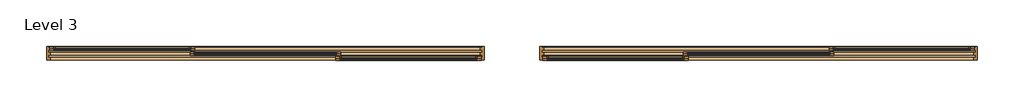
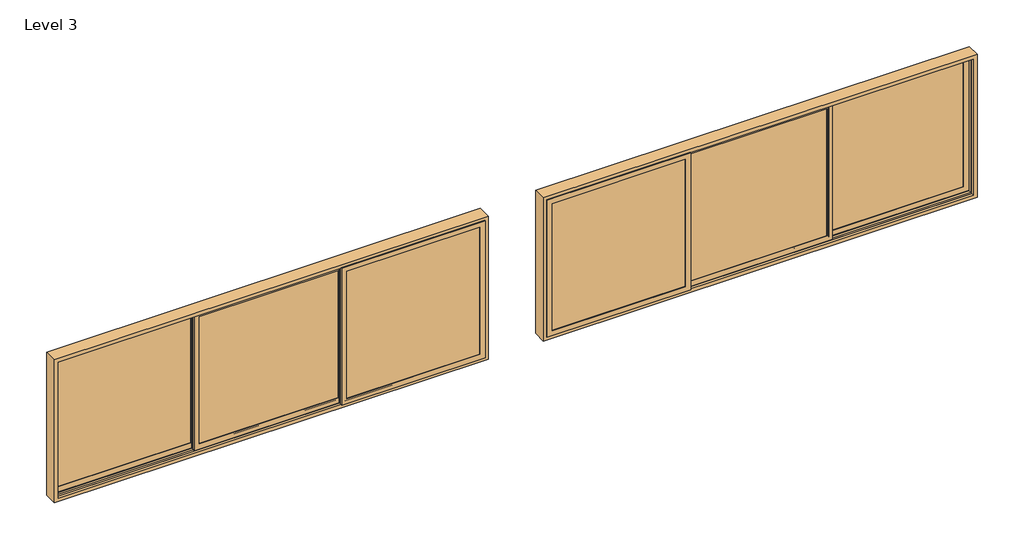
# One storey: 2 doors.
"""IFC4 building model written with IfcOpenShell, lengths in millimetres."""

import ifcopenshell
import ifcopenshell.guid

model = None  # the IFC model being written
_history = None  # IfcOwnerHistory: only IFC2X3 demands one
_inside = {}  # id of a spatial element -> (the spatial element, [elements in it])
_under = {}  # id of a project, library or spatial element -> (it, [spatial elements below it])
_declared = {}  # id of a project -> (the project, [libraries it declares])
_typed = {}  # id of a type object -> (the type object, [elements of that type])
_made_of = {}  # id of a material, layer set ... -> (it, [elements and type objects made of it])


def new_model(schema):
    """Start an empty IFC model of exactly this schema.

    Asked for "IFC4X3", IfcOpenShell would pick the latest addendum, in which some entities
    have other attributes; the version numbers below select the first issue.
    IFC2X3 requires an IfcOwnerHistory on every rooted entity: one is made here for all.
    """
    global model, _history
    if schema == "IFC4X3":
        model = ifcopenshell.file(schema_version=(4, 3, 0, 0))
    else:
        model = ifcopenshell.file(schema=schema)
    _inside.clear()
    _under.clear()
    _declared.clear()
    _typed.clear()
    _made_of.clear()
    _history = None
    if model.schema == "IFC2X3":
        org = make("IfcOrganization", Name="unknown")
        user = make(
            "IfcPersonAndOrganization",
            ThePerson=make("IfcPerson", FamilyName="unknown"),
            TheOrganization=org,
        )
        app = make(
            "IfcApplication",
            ApplicationDeveloper=org,
            Version="unknown",
            ApplicationFullName="unknown",
            ApplicationIdentifier="unknown",
        )
        _history = make(
            "IfcOwnerHistory",
            OwningUser=user,
            OwningApplication=app,
            ChangeAction="ADDED",
            CreationDate=0,
        )
    return model


def make(cls, **values):
    """One entity of the class cls with the attributes given. An attribute that is None is left unset."""
    return model.create_entity(
        cls, **{name: value for name, value in values.items() if value is not None}
    )


def rooted(cls, **values):
    """An entity with a GlobalId (a new one), such as an element, a storey or a relation."""
    return make(cls, GlobalId=ifcopenshell.guid.new(), OwnerHistory=_history, **values)


def si_unit(unit_type, name, prefix=None):
    """IfcSIUnit, for example si_unit("LENGTHUNIT", "METRE", prefix="MILLI")."""
    return make("IfcSIUnit", UnitType=unit_type, Prefix=prefix, Name=name)


def assignment(units):
    """IfcUnitAssignment: the units of a project."""
    return None if units is None else make("IfcUnitAssignment", Units=units)


def point(xyz):
    """IfcCartesianPoint."""
    return None if xyz is None else make("IfcCartesianPoint", Coordinates=xyz)


def direction(xyz):
    """IfcDirection."""
    return None if xyz is None else make("IfcDirection", DirectionRatios=xyz)


def frame(location, z_axis=None, x_axis=None):
    """IfcAxis2Placement3D, a coordinate frame: its origin and axes. An axis left out is left unset."""
    return make(
        "IfcAxis2Placement3D",
        Location=point(location),
        Axis=direction(z_axis),
        RefDirection=direction(x_axis),
    )


def origin():
    """The frame at (0, 0, 0) with its axes left unset."""
    return frame((0.0, 0.0, 0.0))


def place(relative_to, where):
    """IfcLocalPlacement: puts the frame where relative to a parent placement (None: the world)."""
    return make(
        "IfcLocalPlacement", PlacementRelTo=relative_to, RelativePlacement=where
    )


def context(
    kind, dimensions, precision=None, world=None, true_north=None, identifier=None
):
    """IfcGeometricRepresentationContext, for example the 3D "Model" context."""
    return make(
        "IfcGeometricRepresentationContext",
        ContextIdentifier=identifier,
        ContextType=kind,
        CoordinateSpaceDimension=dimensions,
        Precision=precision,
        WorldCoordinateSystem=world,
        TrueNorth=true_north,
    )


def project(units=None, contexts=None):
    """IfcProject with its units and contexts."""
    return rooted(
        "IfcProject",
        Name="project",
        RepresentationContexts=contexts,
        UnitsInContext=assignment(units),
    )


def spatial(cls, under=None, at=None, **own):
    """A site, building, storey or space (cls), placed at a placement, below another one or the project."""
    s = rooted(cls, ObjectPlacement=at, **own)
    if under is not None:
        _under.setdefault(under.id(), (under, []))[1].append(s)
    return s


def polyline(points):
    """IfcPolyline through the points."""
    return make("IfcPolyline", Points=[point(p) for p in points])


def outline(outer, holes=None, kind="AREA"):
    """IfcArbitraryClosedProfileDef: a profile drawn as a closed curve; with holes, ...WithVoids."""
    if holes is None:
        return make("IfcArbitraryClosedProfileDef", ProfileType=kind, OuterCurve=outer)
    return make(
        "IfcArbitraryProfileDefWithVoids",
        ProfileType=kind,
        OuterCurve=outer,
        InnerCurves=holes,
    )


def extrude(swept, where, along, depth):
    """IfcExtrudedAreaSolid: the profile swept, set in the frame where, extruded along a direction by depth."""
    return make(
        "IfcExtrudedAreaSolid",
        SweptArea=swept,
        Position=where,
        ExtrudedDirection=direction(along),
        Depth=depth,
    )


def faces_of(points, faces, orient=None, outer=None):
    """IfcFace entities. A face is a list of loops; a loop is a list of indices into points, from 0.

    orient and outer hold one flag for each loop. By default every Orientation is true, the
    first loop of a face is its IfcFaceOuterBound and the others are IfcFaceBound.
    """
    made = []
    for i, loops in enumerate(faces):
        bounds = []
        for j, loop in enumerate(loops):
            is_outer = j == 0 if outer is None else outer[i][j]
            bounds.append(
                make(
                    "IfcFaceOuterBound" if is_outer else "IfcFaceBound",
                    Bound=make("IfcPolyLoop", Polygon=[points[k] for k in loop]),
                    Orientation=True if orient is None else orient[i][j],
                )
            )
        made.append(make("IfcFace", Bounds=bounds))
    return made


def faceted_brep(points, faces, orient=None, outer=None, voids=None):
    """IfcFacetedBrep: a solid bounded by flat faces; with voids (closed shells), ...WithVoids."""
    shared = [point(p) for p in points]
    hull = make("IfcClosedShell", CfsFaces=faces_of(shared, faces, orient, outer))
    if voids is None:
        return make("IfcFacetedBrep", Outer=hull)
    return make(
        "IfcFacetedBrepWithVoids",
        Outer=hull,
        Voids=[
            make(cls, CfsFaces=faces_of(shared, fs, o, b)) for cls, fs, o, b in voids
        ],
    )


def shape(context_of_items, identifier, shape_type, items):
    """IfcShapeRepresentation: the items that make up one representation, for example the "Body"."""
    return make(
        "IfcShapeRepresentation",
        ContextOfItems=context_of_items,
        RepresentationIdentifier=identifier,
        RepresentationType=shape_type,
        Items=items,
    )


def source(mapping_origin, context_of_items, identifier, shape_type, items):
    """IfcRepresentationMap: a shape defined once, which mapped items show again and again."""
    return make(
        "IfcRepresentationMap",
        MappingOrigin=mapping_origin,
        MappedRepresentation=shape(context_of_items, identifier, shape_type, items),
    )


def transform(
    local_origin,
    x_axis=None,
    y_axis=None,
    z_axis=None,
    scale=None,
    scale2=None,
    scale3=None,
    uniform=True,
):
    """IfcCartesianTransformationOperator3D, or its non-uniform kind. x_axis, y_axis, z_axis: its Axis1, 2, 3."""
    if uniform:
        return make(
            "IfcCartesianTransformationOperator3D",
            Axis1=direction(x_axis),
            Axis2=direction(y_axis),
            LocalOrigin=point(local_origin),
            Scale=scale,
            Axis3=direction(z_axis),
        )
    return make(
        "IfcCartesianTransformationOperator3DnonUniform",
        Axis1=direction(x_axis),
        Axis2=direction(y_axis),
        LocalOrigin=point(local_origin),
        Scale=scale,
        Axis3=direction(z_axis),
        Scale2=scale2,
        Scale3=scale3,
    )


def mapped(mapping_source, mapping_target):
    """IfcMappedItem: shows the shape of a source again, moved by a transform."""
    return make(
        "IfcMappedItem", MappingSource=mapping_source, MappingTarget=mapping_target
    )


def made_of(thing, what):
    """Note that an element or type object is made of a material, layer set ...; save() writes the relation."""
    if what is not None:
        _made_of.setdefault(what.id(), (what, []))[1].append(thing)
    return thing


def element(
    cls,
    number,
    at=None,
    inside=None,
    cuts=None,
    type_object=None,
    material=None,
    context=None,
    identifier="Body",
    shape_type=None,
    held_by="IfcProductDefinitionShape",
    body=None,
    shapes=None,
    **own,
):
    """One element of the class cls, such as IfcWall. Its Tag is "e" and its number.

    at: its placement. inside: the storey or other place that contains it. cuts: it is an
    opening in that element (IfcRelVoidsElement). A single representation is given by context,
    identifier, shape_type and body (its items); several are given by shapes. held_by: the class
    of the entity that holds the representations. save() writes the other relations.
    """
    e = rooted(cls, Tag="e%d" % number, ObjectPlacement=at, **own)
    if body is not None:
        shapes = [shape(context, identifier, shape_type, body)]
    if shapes is not None:
        e.Representation = make(held_by, Representations=shapes)
    if inside is not None:
        _inside.setdefault(inside.id(), (inside, []))[1].append(e)
    if cuts is not None:
        rooted(
            "IfcRelVoidsElement", RelatingBuildingElement=cuts, RelatedOpeningElement=e
        )
    if type_object is not None:
        _typed.setdefault(type_object.id(), (type_object, []))[1].append(e)
    return made_of(e, material)


def aggregate(whole, parts):
    """IfcRelAggregates: a whole, such as a stair, and the parts it consists of."""
    return rooted("IfcRelAggregates", RelatingObject=whole, RelatedObjects=parts)


def save(model, path):
    """Write the relations noted so far, then the file.

    IfcRelAggregates (storeys below a building ...), IfcRelContainedInSpatialStructure (elements
    in a storey), IfcRelDefinesByType, IfcRelAssociatesMaterial and IfcRelDeclares: one each for
    every whole, place, type object, material and project.
    """
    for whole, parts in _under.values():
        aggregate(whole, parts)
    for where, things in _inside.values():
        rooted(
            "IfcRelContainedInSpatialStructure",
            RelatedElements=things,
            RelatingStructure=where,
        )
    for kind, things in _typed.values():
        rooted("IfcRelDefinesByType", RelatedObjects=things, RelatingType=kind)
    for what, things in _made_of.values():
        rooted("IfcRelAssociatesMaterial", RelatedObjects=things, RelatingMaterial=what)
    for by, libraries in _declared.values():
        rooted("IfcRelDeclares", RelatingContext=by, RelatedDefinitions=libraries)
    model.write(path)


def standard_4c101147(model_context):
    return source(origin(), model_context, "Body", "SolidModel", [
        extrude(outline(polyline([(2892.5, 67.0), (2892.5, 63.0), (1024.8333333, 63.0), (1024.8333333, 67.0), (2892.5, 67.0)])), frame((0.0, 0.0, 907.5), z_axis=(0.0, 0.0, 1.0), x_axis=(1.0, 0.0, 0.0)), (0.0, 0.0, 1.0), 1885.0),
        extrude(outline(polyline([(2892.5, 47.0), (2892.5, 43.0), (1024.8333333, 43.0), (1024.8333333, 47.0), (2892.5, 47.0)])), frame((0.0, 0.0, 907.5), z_axis=(0.0, 0.0, 1.0), x_axis=(1.0, 0.0, 0.0)), (0.0, 0.0, 1.0), 1885.0),
        extrude(outline(polyline([(2792.5, 2892.5), (2792.5, 1024.8333333), (907.5, 1024.8333333), (907.5, 2892.5), (2792.5, 2892.5)]), holes=[polyline([(2782.5, 1034.8333333), (2782.5, 2882.5), (917.5, 2882.5), (917.5, 1034.8333333), (2782.5, 1034.8333333)])]), frame((0.0, 47.0, 0.0), z_axis=(0.0, 1.0, 0.0), x_axis=(0.0, 0.0, 1.0)), (0.0, 0.0, 1.0), 16.0),
        extrude(outline(polyline([(902.5, 2897.5), (2797.5, 2897.5), (2797.5, 1019.8333333), (902.5, 1019.8333333), (902.5, 2897.5)]), holes=[polyline([(2777.5, 2877.5), (922.5, 2877.5), (922.5, 1039.8333333), (2777.5, 1039.8333333), (2777.5, 2877.5)])]), frame((0.0, 74.0102223, 0.0), z_axis=(0.0, 1.0, 0.0), x_axis=(0.0, 0.0, 1.0)), (0.0, 0.0, 1.0), 11.9897777),
        extrude(outline(polyline([(848.5, 2951.5), (2851.5, 2951.5), (2851.5, 965.8333333), (848.5, 965.8333333), (848.5, 2951.5)]), holes=[polyline([(2797.5, 2897.5), (902.5, 2897.5), (902.5, 1019.8333333), (2797.5, 1019.8333333), (2797.5, 2897.5)])]), frame((0.0, 62.0, 0.0), z_axis=(0.0, 1.0, 0.0), x_axis=(0.0, 0.0, 1.0)), (0.0, 0.0, 1.0), 24.0),
        faceted_brep([(2877.5, 39.0, 2777.5), (2877.5, 39.0, 922.5), (2877.5, 35.0, 922.5), (2877.5, 35.0, 2777.5), (2900.5, 62.0, 2800.5), (2900.5, 62.0, 899.5), (2900.5, 39.0, 899.5), (2900.5, 39.0, 2800.5), (2951.5, 35.0, 2851.5), (2951.5, 35.0, 848.5), (2951.5, 62.0, 848.5), (2951.5, 62.0, 2851.5), (1039.8333333, 39.0, 922.5), (1039.8333333, 35.0, 922.5), (1016.8333333, 62.0, 899.5), (1016.8333333, 39.0, 899.5), (965.8333333, 35.0, 848.5), (965.8333333, 62.0, 848.5), (1039.8333333, 39.0, 2777.5), (1039.8333333, 35.0, 2777.5), (1016.8333333, 62.0, 2800.5), (1016.8333333, 39.0, 2800.5), (965.8333333, 35.0, 2851.5), (965.8333333, 62.0, 2851.5)], [[[0, 1, 2, 3]], [[4, 5, 6, 7]], [[8, 9, 10, 11]], [[1, 12, 13, 2]], [[5, 14, 15, 6]], [[9, 16, 17, 10]], [[12, 18, 19, 13]], [[14, 20, 21, 15]], [[16, 22, 23, 17]], [[9, 8, 22, 16], [3, 2, 13, 19]], [[18, 0, 3, 19]], [[7, 6, 15, 21], [1, 0, 18, 12]], [[20, 4, 7, 21]], [[11, 10, 17, 23], [5, 4, 20, 14]], [[22, 8, 11, 23]]]),
        extrude(outline(polyline([(971.8333333, 0.0), (971.8333333, -4.0), (-971.8333333, -4.0), (-971.8333333, 0.0), (971.8333333, 0.0)])), frame((0.0, 0.0, 907.5), z_axis=(0.0, 0.0, 1.0), x_axis=(1.0, 0.0, 0.0)), (0.0, 0.0, 1.0), 1885.0),
        extrude(outline(polyline([(971.8333333, -20.0), (971.8333333, -24.0), (-971.8333333, -24.0), (-971.8333333, -20.0), (971.8333333, -20.0)])), frame((0.0, 0.0, 907.5), z_axis=(0.0, 0.0, 1.0), x_axis=(1.0, 0.0, 0.0)), (0.0, 0.0, 1.0), 1885.0),
        extrude(outline(polyline([(2792.5, 971.8333333), (2792.5, -971.8333333), (907.5, -971.8333333), (907.5, 971.8333333), (2792.5, 971.8333333)]), holes=[polyline([(2782.5, -961.8333333), (2782.5, 961.8333333), (917.5, 961.8333333), (917.5, -961.8333333), (2782.5, -961.8333333)])]), frame((0.0, -20.0, 0.0), z_axis=(0.0, 1.0, 0.0), x_axis=(0.0, 0.0, 1.0)), (0.0, 0.0, 1.0), 16.0),
        extrude(outline(polyline([(902.5, 976.8333333), (2797.5, 976.8333333), (2797.5, -976.8333333), (902.5, -976.8333333), (902.5, 976.8333333)]), holes=[polyline([(2777.5, 956.8333333), (922.5, 956.8333333), (922.5, -956.8333333), (2777.5, -956.8333333), (2777.5, 956.8333333)])]), frame((0.0, 7.0102223, 0.0), z_axis=(0.0, 1.0, 0.0), x_axis=(0.0, 0.0, 1.0)), (0.0, 0.0, 1.0), 11.9897777),
        extrude(outline(polyline([(848.5, 1030.8333333), (2851.5, 1030.8333333), (2851.5, -1030.8333333), (848.5, -1030.8333333), (848.5, 1030.8333333)]), holes=[polyline([(2797.5, 976.8333333), (902.5, 976.8333333), (902.5, -976.8333333), (2797.5, -976.8333333), (2797.5, 976.8333333)])]), frame((0.0, -5.0, 0.0), z_axis=(0.0, 1.0, 0.0), x_axis=(0.0, 0.0, 1.0)), (0.0, 0.0, 1.0), 24.0),
        faceted_brep([(956.8333333, -28.0, 2777.5), (956.8333333, -28.0, 922.5), (956.8333333, -32.0, 922.5), (956.8333333, -32.0, 2777.5), (979.8333333, -5.0, 2800.5), (979.8333333, -5.0, 899.5), (979.8333333, -28.0, 899.5), (979.8333333, -28.0, 2800.5), (1030.8333333, -32.0, 2851.5), (1030.8333333, -32.0, 848.5), (1030.8333333, -5.0, 848.5), (1030.8333333, -5.0, 2851.5), (-956.8333333, -28.0, 922.5), (-956.8333333, -32.0, 922.5), (-979.8333333, -5.0, 899.5), (-979.8333333, -28.0, 899.5), (-1030.8333333, -32.0, 848.5), (-1030.8333333, -5.0, 848.5), (-956.8333333, -28.0, 2777.5), (-956.8333333, -32.0, 2777.5), (-979.8333333, -5.0, 2800.5), (-979.8333333, -28.0, 2800.5), (-1030.8333333, -32.0, 2851.5), (-1030.8333333, -5.0, 2851.5)], [[[0, 1, 2, 3]], [[4, 5, 6, 7]], [[8, 9, 10, 11]], [[1, 12, 13, 2]], [[5, 14, 15, 6]], [[9, 16, 17, 10]], [[12, 18, 19, 13]], [[14, 20, 21, 15]], [[16, 22, 23, 17]], [[9, 8, 22, 16], [3, 2, 13, 19]], [[18, 0, 3, 19]], [[7, 6, 15, 21], [1, 0, 18, 12]], [[20, 4, 7, 21]], [[11, 10, 17, 23], [5, 4, 20, 14]], [[22, 8, 11, 23]]]),
        extrude(outline(polyline([(-1024.8333333, -67.0), (-1024.8333333, -71.0), (-2892.5, -71.0), (-2892.5, -67.0), (-1024.8333333, -67.0)])), frame((0.0, 0.0, 907.5), z_axis=(0.0, 0.0, 1.0), x_axis=(1.0, 0.0, 0.0)), (0.0, 0.0, 1.0), 1885.0),
        extrude(outline(polyline([(-1024.8333333, -87.0), (-1024.8333333, -91.0), (-2892.5, -91.0), (-2892.5, -87.0), (-1024.8333333, -87.0)])), frame((0.0, 0.0, 907.5), z_axis=(0.0, 0.0, 1.0), x_axis=(1.0, 0.0, 0.0)), (0.0, 0.0, 1.0), 1885.0),
        extrude(outline(polyline([(2792.5, -1024.8333333), (2792.5, -2892.5), (907.5, -2892.5), (907.5, -1024.8333333), (2792.5, -1024.8333333)]), holes=[polyline([(2782.5, -2882.5), (2782.5, -1034.8333333), (917.5, -1034.8333333), (917.5, -2882.5), (2782.5, -2882.5)])]), frame((0.0, -87.0, 0.0), z_axis=(0.0, 1.0, 0.0), x_axis=(0.0, 0.0, 1.0)), (0.0, 0.0, 1.0), 16.0),
        extrude(outline(polyline([(902.5, -1019.8333333), (2797.5, -1019.8333333), (2797.5, -2897.5), (902.5, -2897.5), (902.5, -1019.8333333)]), holes=[polyline([(2777.5, -1039.8333333), (922.5, -1039.8333333), (922.5, -2877.5), (2777.5, -2877.5), (2777.5, -1039.8333333)])]), frame((0.0, -59.9897777, 0.0), z_axis=(0.0, 1.0, 0.0), x_axis=(0.0, 0.0, 1.0)), (0.0, 0.0, 1.0), 11.9897777),
        extrude(outline(polyline([(848.5, -965.8333333), (2851.5, -965.8333333), (2851.5, -2951.5), (848.5, -2951.5), (848.5, -965.8333333)]), holes=[polyline([(2797.5, -1019.8333333), (902.5, -1019.8333333), (902.5, -2897.5), (2797.5, -2897.5), (2797.5, -1019.8333333)])]), frame((0.0, -72.0, 0.0), z_axis=(0.0, 1.0, 0.0), x_axis=(0.0, 0.0, 1.0)), (0.0, 0.0, 1.0), 24.0),
        faceted_brep([(-1039.8333333, -95.0, 2777.5), (-1039.8333333, -95.0, 922.5), (-1039.8333333, -99.0, 922.5), (-1039.8333333, -99.0, 2777.5), (-1016.8333333, -72.0, 2800.5), (-1016.8333333, -72.0, 899.5), (-1016.8333333, -95.0, 899.5), (-1016.8333333, -95.0, 2800.5), (-965.8333333, -99.0, 2851.5), (-965.8333333, -99.0, 848.5), (-965.8333333, -72.0, 848.5), (-965.8333333, -72.0, 2851.5), (-2877.5, -95.0, 922.5), (-2877.5, -99.0, 922.5), (-2900.5, -72.0, 899.5), (-2900.5, -95.0, 899.5), (-2951.5, -99.0, 848.5), (-2951.5, -72.0, 848.5), (-2877.5, -95.0, 2777.5), (-2877.5, -99.0, 2777.5), (-2900.5, -72.0, 2800.5), (-2900.5, -95.0, 2800.5), (-2951.5, -99.0, 2851.5), (-2951.5, -72.0, 2851.5)], [[[0, 1, 2, 3]], [[4, 5, 6, 7]], [[8, 9, 10, 11]], [[1, 12, 13, 2]], [[5, 14, 15, 6]], [[9, 16, 17, 10]], [[12, 18, 19, 13]], [[14, 20, 21, 15]], [[16, 22, 23, 17]], [[9, 8, 22, 16], [3, 2, 13, 19]], [[18, 0, 3, 19]], [[7, 6, 15, 21], [1, 0, 18, 12]], [[20, 4, 7, 21]], [[11, 10, 17, 23], [5, 4, 20, 14]], [[22, 8, 11, 23]]]),
        faceted_brep([(2995.0, 95.0, 2895.0), (-2995.0, 95.0, 2895.0), (-2995.0, -89.39785, 2895.0), (2995.0, -89.39785, 2895.0), (2943.1999999, 91.0, 2843.1999999), (-2943.1999999, 91.0, 2843.1999999), (-2943.1999999, 95.0, 2843.1999999), (2943.1999999, 95.0, 2843.1999999), (2969.1999999, 76.3, 2869.1999999), (-2969.1999999, 76.3, 2869.1999999), (-2969.1999999, 91.0, 2869.1999999), (2969.1999999, 91.0, 2869.1999999), (2943.1999999, 43.7842251, 2843.1999999), (-2943.1999999, 43.7842251, 2843.1999999), (-2943.1999999, 76.3, 2843.1999999), (2943.1999999, 76.3, 2843.1999999), (2969.1999999, 9.7842251, 2869.1999999), (-2969.1999999, 9.7842251, 2869.1999999), (-2969.1999999, 43.7842251, 2869.1999999), (2969.1999999, 43.7842251, 2869.1999999), (2943.1999999, -22.7989407, 2843.1999999), (-2943.1999999, -22.7989407, 2843.1999999), (-2943.1999999, 9.7842251, 2843.1999999), (2943.1999999, 9.7842251, 2843.1999999), (2969.2, -56.7989407, 2869.2), (-2969.2, -56.7989407, 2869.2), (-2969.2, -22.7989407, 2869.2), (2969.2, -22.7989407, 2869.2), (2943.0, -89.39785, 2843.0), (-2943.0, -89.39785, 2843.0), (-2943.0, -56.7989407, 2843.0), (2943.0, -56.7989407, 2843.0), (-2995.0, 95.0, 805.0), (-2995.0, -89.39785, 805.0), (-2943.1999999, 91.0, 856.8000001), (-2943.1999999, 95.0, 856.8000001), (-2969.1999999, 76.3, 830.8000001), (-2969.1999999, 91.0, 830.8000001), (-2943.1999999, 43.7842251, 856.8000001), (-2943.1999999, 76.3, 856.8000001), (-2969.1999999, 9.7842251, 830.8000001), (-2969.1999999, 43.7842251, 830.8000001), (-2943.1999999, -22.7989407, 856.8000001), (-2943.1999999, 9.7842251, 856.8000001), (-2969.2, -56.7989407, 830.8), (-2969.2, -22.7989407, 830.8), (-2943.0, -89.39785, 857.0), (-2943.0, -56.7989407, 857.0), (2995.0, 95.0, 805.0), (2995.0, -89.39785, 805.0), (2943.1999999, 91.0, 856.8000001), (2943.1999999, 95.0, 856.8000001), (2969.1999999, 76.3, 830.8000001), (2969.1999999, 91.0, 830.8000001), (2943.1999999, 43.7842251, 856.8000001), (2943.1999999, 76.3, 856.8000001), (2969.1999999, 9.7842251, 830.8000001), (2969.1999999, 43.7842251, 830.8000001), (2943.1999999, -22.7989407, 856.8000001), (2943.1999999, 9.7842251, 856.8000001), (2969.2, -56.7989407, 830.8), (2969.2, -22.7989407, 830.8), (2943.0, -89.39785, 857.0), (2943.0, -56.7989407, 857.0)], [[[0, 1, 2, 3]], [[4, 5, 6, 7]], [[8, 9, 10, 11]], [[12, 13, 14, 15]], [[16, 17, 18, 19]], [[20, 21, 22, 23]], [[24, 25, 26, 27]], [[28, 29, 30, 31]], [[1, 32, 33, 2]], [[5, 34, 35, 6]], [[9, 36, 37, 10]], [[13, 38, 39, 14]], [[17, 40, 41, 18]], [[21, 42, 43, 22]], [[25, 44, 45, 26]], [[29, 46, 47, 30]], [[32, 48, 49, 33]], [[34, 50, 51, 35]], [[36, 52, 53, 37]], [[38, 54, 55, 39]], [[40, 56, 57, 41]], [[42, 58, 59, 43]], [[44, 60, 61, 45]], [[46, 62, 63, 47]], [[3, 2, 33, 49], [29, 28, 62, 46]], [[48, 0, 3, 49]], [[1, 0, 48, 32], [7, 6, 35, 51]], [[50, 4, 7, 51]], [[11, 10, 37, 53], [5, 4, 50, 34]], [[52, 8, 11, 53]], [[9, 8, 52, 36], [15, 14, 39, 55]], [[54, 12, 15, 55]], [[19, 18, 41, 57], [13, 12, 54, 38]], [[56, 16, 19, 57]], [[17, 16, 56, 40], [23, 22, 43, 59]], [[58, 20, 23, 59]], [[27, 26, 45, 61], [21, 20, 58, 42]], [[60, 24, 27, 61]], [[25, 24, 60, 44], [31, 30, 47, 63]], [[62, 28, 31, 63]]]),
    ])


def standard_dc2410ad(model_context):
    return source(origin(), model_context, "Body", "SolidModel", [
        extrude(outline(polyline([(2892.5, -67.0), (1024.8333333, -67.0), (1024.8333333, -63.0), (2892.5, -63.0), (2892.5, -67.0)])), frame((0.0, 0.0, 907.5), z_axis=(0.0, 0.0, 1.0), x_axis=(1.0, 0.0, 0.0)), (0.0, 0.0, 1.0), 1885.0),
        extrude(outline(polyline([(2892.5, -47.0), (1024.8333333, -47.0), (1024.8333333, -43.0), (2892.5, -43.0), (2892.5, -47.0)])), frame((0.0, 0.0, 907.5), z_axis=(0.0, 0.0, 1.0), x_axis=(1.0, 0.0, 0.0)), (0.0, 0.0, 1.0), 1885.0),
        extrude(outline(polyline([(2792.5, 1024.8333333), (907.5, 1024.8333333), (907.5, 2892.5), (2792.5, 2892.5), (2792.5, 1024.8333333)]), holes=[polyline([(2782.5, 2882.5), (917.5, 2882.5), (917.5, 1034.8333333), (2782.5, 1034.8333333), (2782.5, 2882.5)])]), frame((0.0, -63.0, 0.0), z_axis=(0.0, 1.0, 0.0), x_axis=(0.0, 0.0, 1.0)), (0.0, 0.0, 1.0), 16.0),
        extrude(outline(polyline([(2797.5, 2897.5), (2797.5, 1019.8333333), (902.5, 1019.8333333), (902.5, 2897.5), (2797.5, 2897.5)]), holes=[polyline([(922.5, 2877.5), (922.5, 1039.8333333), (2777.5, 1039.8333333), (2777.5, 2877.5), (922.5, 2877.5)])]), frame((0.0, -86.0, 0.0), z_axis=(0.0, 1.0, 0.0), x_axis=(0.0, 0.0, 1.0)), (0.0, 0.0, 1.0), 11.9897777),
        extrude(outline(polyline([(2851.5, 2951.5), (2851.5, 965.8333333), (848.5, 965.8333333), (848.5, 2951.5), (2851.5, 2951.5)]), holes=[polyline([(902.5, 2897.5), (902.5, 1019.8333333), (2797.5, 1019.8333333), (2797.5, 2897.5), (902.5, 2897.5)])]), frame((0.0, -86.0, 0.0), z_axis=(0.0, 1.0, 0.0), x_axis=(0.0, 0.0, 1.0)), (0.0, 0.0, 1.0), 24.0),
        faceted_brep([(2877.5, -39.0, 2777.5), (2877.5, -35.0, 2777.5), (2877.5, -35.0, 922.5), (2877.5, -39.0, 922.5), (2900.5, -62.0, 2800.5), (2900.5, -39.0, 2800.5), (2900.5, -39.0, 899.5), (2900.5, -62.0, 899.5), (2951.5, -35.0, 2851.5), (2951.5, -62.0, 2851.5), (2951.5, -62.0, 848.5), (2951.5, -35.0, 848.5), (1039.8333333, -35.0, 922.5), (1039.8333333, -39.0, 922.5), (1016.8333333, -39.0, 899.5), (1016.8333333, -62.0, 899.5), (965.8333333, -62.0, 848.5), (965.8333333, -35.0, 848.5), (1039.8333333, -35.0, 2777.5), (1039.8333333, -39.0, 2777.5), (1016.8333333, -39.0, 2800.5), (1016.8333333, -62.0, 2800.5), (965.8333333, -62.0, 2851.5), (965.8333333, -35.0, 2851.5)], [[[0, 1, 2, 3]], [[4, 5, 6, 7]], [[8, 9, 10, 11]], [[3, 2, 12, 13]], [[7, 6, 14, 15]], [[11, 10, 16, 17]], [[13, 12, 18, 19]], [[15, 14, 20, 21]], [[17, 16, 22, 23]], [[11, 17, 23, 8], [1, 18, 12, 2]], [[19, 18, 1, 0]], [[5, 20, 14, 6], [3, 13, 19, 0]], [[21, 20, 5, 4]], [[9, 22, 16, 10], [7, 15, 21, 4]], [[23, 22, 9, 8]]]),
        extrude(outline(polyline([(971.8333333, 0.0), (-971.8333333, 0.0), (-971.8333333, 4.0), (971.8333333, 4.0), (971.8333333, 0.0)])), frame((0.0, 0.0, 907.5), z_axis=(0.0, 0.0, 1.0), x_axis=(1.0, 0.0, 0.0)), (0.0, 0.0, 1.0), 1885.0),
        extrude(outline(polyline([(971.8333333, 20.0), (-971.8333333, 20.0), (-971.8333333, 24.0), (971.8333333, 24.0), (971.8333333, 20.0)])), frame((0.0, 0.0, 907.5), z_axis=(0.0, 0.0, 1.0), x_axis=(1.0, 0.0, 0.0)), (0.0, 0.0, 1.0), 1885.0),
        extrude(outline(polyline([(2792.5, -971.8333333), (907.5, -971.8333333), (907.5, 971.8333333), (2792.5, 971.8333333), (2792.5, -971.8333333)]), holes=[polyline([(2782.5, 961.8333333), (917.5, 961.8333333), (917.5, -961.8333333), (2782.5, -961.8333333), (2782.5, 961.8333333)])]), frame((0.0, 4.0, 0.0), z_axis=(0.0, 1.0, 0.0), x_axis=(0.0, 0.0, 1.0)), (0.0, 0.0, 1.0), 16.0),
        extrude(outline(polyline([(2797.5, 976.8333333), (2797.5, -976.8333333), (902.5, -976.8333333), (902.5, 976.8333333), (2797.5, 976.8333333)]), holes=[polyline([(922.5, 956.8333333), (922.5, -956.8333333), (2777.5, -956.8333333), (2777.5, 956.8333333), (922.5, 956.8333333)])]), frame((0.0, -19.0, 0.0), z_axis=(0.0, 1.0, 0.0), x_axis=(0.0, 0.0, 1.0)), (0.0, 0.0, 1.0), 11.9897777),
        extrude(outline(polyline([(2851.5, 1030.8333333), (2851.5, -1030.8333333), (848.5, -1030.8333333), (848.5, 1030.8333333), (2851.5, 1030.8333333)]), holes=[polyline([(902.5, 976.8333333), (902.5, -976.8333333), (2797.5, -976.8333333), (2797.5, 976.8333333), (902.5, 976.8333333)])]), frame((0.0, -19.0, 0.0), z_axis=(0.0, 1.0, 0.0), x_axis=(0.0, 0.0, 1.0)), (0.0, 0.0, 1.0), 24.0),
        faceted_brep([(956.8333333, 28.0, 2777.5), (956.8333333, 32.0, 2777.5), (956.8333333, 32.0, 922.5), (956.8333333, 28.0, 922.5), (979.8333333, 5.0, 2800.5), (979.8333333, 28.0, 2800.5), (979.8333333, 28.0, 899.5), (979.8333333, 5.0, 899.5), (1030.8333333, 32.0, 2851.5), (1030.8333333, 5.0, 2851.5), (1030.8333333, 5.0, 848.5), (1030.8333333, 32.0, 848.5), (-956.8333333, 32.0, 922.5), (-956.8333333, 28.0, 922.5), (-979.8333333, 28.0, 899.5), (-979.8333333, 5.0, 899.5), (-1030.8333333, 5.0, 848.5), (-1030.8333333, 32.0, 848.5), (-956.8333333, 32.0, 2777.5), (-956.8333333, 28.0, 2777.5), (-979.8333333, 28.0, 2800.5), (-979.8333333, 5.0, 2800.5), (-1030.8333333, 5.0, 2851.5), (-1030.8333333, 32.0, 2851.5)], [[[0, 1, 2, 3]], [[4, 5, 6, 7]], [[8, 9, 10, 11]], [[3, 2, 12, 13]], [[7, 6, 14, 15]], [[11, 10, 16, 17]], [[13, 12, 18, 19]], [[15, 14, 20, 21]], [[17, 16, 22, 23]], [[11, 17, 23, 8], [1, 18, 12, 2]], [[19, 18, 1, 0]], [[5, 20, 14, 6], [3, 13, 19, 0]], [[21, 20, 5, 4]], [[9, 22, 16, 10], [7, 15, 21, 4]], [[23, 22, 9, 8]]]),
        extrude(outline(polyline([(-1024.8333333, 67.0), (-2892.5, 67.0), (-2892.5, 71.0), (-1024.8333333, 71.0), (-1024.8333333, 67.0)])), frame((0.0, 0.0, 907.5), z_axis=(0.0, 0.0, 1.0), x_axis=(1.0, 0.0, 0.0)), (0.0, 0.0, 1.0), 1885.0),
        extrude(outline(polyline([(-1024.8333333, 87.0), (-2892.5, 87.0), (-2892.5, 91.0), (-1024.8333333, 91.0), (-1024.8333333, 87.0)])), frame((0.0, 0.0, 907.5), z_axis=(0.0, 0.0, 1.0), x_axis=(1.0, 0.0, 0.0)), (0.0, 0.0, 1.0), 1885.0),
        extrude(outline(polyline([(2792.5, -2892.5), (907.5, -2892.5), (907.5, -1024.8333333), (2792.5, -1024.8333333), (2792.5, -2892.5)]), holes=[polyline([(2782.5, -1034.8333333), (917.5, -1034.8333333), (917.5, -2882.5), (2782.5, -2882.5), (2782.5, -1034.8333333)])]), frame((0.0, 71.0, 0.0), z_axis=(0.0, 1.0, 0.0), x_axis=(0.0, 0.0, 1.0)), (0.0, 0.0, 1.0), 16.0),
        extrude(outline(polyline([(2797.5, -1019.8333333), (2797.5, -2897.5), (902.5, -2897.5), (902.5, -1019.8333333), (2797.5, -1019.8333333)]), holes=[polyline([(922.5, -1039.8333333), (922.5, -2877.5), (2777.5, -2877.5), (2777.5, -1039.8333333), (922.5, -1039.8333333)])]), frame((0.0, 48.0, 0.0), z_axis=(0.0, 1.0, 0.0), x_axis=(0.0, 0.0, 1.0)), (0.0, 0.0, 1.0), 11.9897777),
        extrude(outline(polyline([(2851.5, -965.8333333), (2851.5, -2951.5), (848.5, -2951.5), (848.5, -965.8333333), (2851.5, -965.8333333)]), holes=[polyline([(902.5, -1019.8333333), (902.5, -2897.5), (2797.5, -2897.5), (2797.5, -1019.8333333), (902.5, -1019.8333333)])]), frame((0.0, 48.0, 0.0), z_axis=(0.0, 1.0, 0.0), x_axis=(0.0, 0.0, 1.0)), (0.0, 0.0, 1.0), 24.0),
        faceted_brep([(-1039.8333333, 95.0, 2777.5), (-1039.8333333, 99.0, 2777.5), (-1039.8333333, 99.0, 922.5), (-1039.8333333, 95.0, 922.5), (-1016.8333333, 72.0, 2800.5), (-1016.8333333, 95.0, 2800.5), (-1016.8333333, 95.0, 899.5), (-1016.8333333, 72.0, 899.5), (-965.8333333, 99.0, 2851.5), (-965.8333333, 72.0, 2851.5), (-965.8333333, 72.0, 848.5), (-965.8333333, 99.0, 848.5), (-2877.5, 99.0, 922.5), (-2877.5, 95.0, 922.5), (-2900.5, 95.0, 899.5), (-2900.5, 72.0, 899.5), (-2951.5, 72.0, 848.5), (-2951.5, 99.0, 848.5), (-2877.5, 99.0, 2777.5), (-2877.5, 95.0, 2777.5), (-2900.5, 95.0, 2800.5), (-2900.5, 72.0, 2800.5), (-2951.5, 72.0, 2851.5), (-2951.5, 99.0, 2851.5)], [[[0, 1, 2, 3]], [[4, 5, 6, 7]], [[8, 9, 10, 11]], [[3, 2, 12, 13]], [[7, 6, 14, 15]], [[11, 10, 16, 17]], [[13, 12, 18, 19]], [[15, 14, 20, 21]], [[17, 16, 22, 23]], [[11, 17, 23, 8], [1, 18, 12, 2]], [[19, 18, 1, 0]], [[5, 20, 14, 6], [3, 13, 19, 0]], [[21, 20, 5, 4]], [[9, 22, 16, 10], [7, 15, 21, 4]], [[23, 22, 9, 8]]]),
        faceted_brep([(2995.0, -95.0, 2895.0), (2995.0, 89.39785, 2895.0), (-2995.0, 89.39785, 2895.0), (-2995.0, -95.0, 2895.0), (2943.1999999, -91.0, 2843.1999999), (2943.1999999, -95.0, 2843.1999999), (-2943.1999999, -95.0, 2843.1999999), (-2943.1999999, -91.0, 2843.1999999), (2969.1999999, -76.3, 2869.1999999), (2969.1999999, -91.0, 2869.1999999), (-2969.1999999, -91.0, 2869.1999999), (-2969.1999999, -76.3, 2869.1999999), (2943.1999999, -43.7842251, 2843.1999999), (2943.1999999, -76.3, 2843.1999999), (-2943.1999999, -76.3, 2843.1999999), (-2943.1999999, -43.7842251, 2843.1999999), (2969.1999999, -9.7842251, 2869.1999999), (2969.1999999, -43.7842251, 2869.1999999), (-2969.1999999, -43.7842251, 2869.1999999), (-2969.1999999, -9.7842251, 2869.1999999), (2943.1999999, 22.7989407, 2843.1999999), (2943.1999999, -9.7842251, 2843.1999999), (-2943.1999999, -9.7842251, 2843.1999999), (-2943.1999999, 22.7989407, 2843.1999999), (2969.2, 56.7989407, 2869.2), (2969.2, 22.7989407, 2869.2), (-2969.2, 22.7989407, 2869.2), (-2969.2, 56.7989407, 2869.2), (2943.0, 89.39785, 2843.0), (2943.0, 56.7989407, 2843.0), (-2943.0, 56.7989407, 2843.0), (-2943.0, 89.39785, 2843.0), (-2995.0, 89.39785, 805.0), (-2995.0, -95.0, 805.0), (-2943.1999999, -95.0, 856.8000001), (-2943.1999999, -91.0, 856.8000001), (-2969.1999999, -91.0, 830.8000001), (-2969.1999999, -76.3, 830.8000001), (-2943.1999999, -76.3, 856.8000001), (-2943.1999999, -43.7842251, 856.8000001), (-2969.1999999, -43.7842251, 830.8000001), (-2969.1999999, -9.7842251, 830.8000001), (-2943.1999999, -9.7842251, 856.8000001), (-2943.1999999, 22.7989407, 856.8000001), (-2969.2, 22.7989407, 830.8), (-2969.2, 56.7989407, 830.8), (-2943.0, 56.7989407, 857.0), (-2943.0, 89.39785, 857.0), (2995.0, 89.39785, 805.0), (2995.0, -95.0, 805.0), (2943.1999999, -95.0, 856.8000001), (2943.1999999, -91.0, 856.8000001), (2969.1999999, -91.0, 830.8000001), (2969.1999999, -76.3, 830.8000001), (2943.1999999, -76.3, 856.8000001), (2943.1999999, -43.7842251, 856.8000001), (2969.1999999, -43.7842251, 830.8000001), (2969.1999999, -9.7842251, 830.8000001), (2943.1999999, -9.7842251, 856.8000001), (2943.1999999, 22.7989407, 856.8000001), (2969.2, 22.7989407, 830.8), (2969.2, 56.7989407, 830.8), (2943.0, 56.7989407, 857.0), (2943.0, 89.39785, 857.0)], [[[0, 1, 2, 3]], [[4, 5, 6, 7]], [[8, 9, 10, 11]], [[12, 13, 14, 15]], [[16, 17, 18, 19]], [[20, 21, 22, 23]], [[24, 25, 26, 27]], [[28, 29, 30, 31]], [[3, 2, 32, 33]], [[7, 6, 34, 35]], [[11, 10, 36, 37]], [[15, 14, 38, 39]], [[19, 18, 40, 41]], [[23, 22, 42, 43]], [[27, 26, 44, 45]], [[31, 30, 46, 47]], [[33, 32, 48, 49]], [[35, 34, 50, 51]], [[37, 36, 52, 53]], [[39, 38, 54, 55]], [[41, 40, 56, 57]], [[43, 42, 58, 59]], [[45, 44, 60, 61]], [[47, 46, 62, 63]], [[1, 48, 32, 2], [31, 47, 63, 28]], [[49, 48, 1, 0]], [[3, 33, 49, 0], [5, 50, 34, 6]], [[51, 50, 5, 4]], [[9, 52, 36, 10], [7, 35, 51, 4]], [[53, 52, 9, 8]], [[11, 37, 53, 8], [13, 54, 38, 14]], [[55, 54, 13, 12]], [[17, 56, 40, 18], [15, 39, 55, 12]], [[57, 56, 17, 16]], [[19, 41, 57, 16], [21, 58, 42, 22]], [[59, 58, 21, 20]], [[25, 60, 44, 26], [23, 43, 59, 20]], [[61, 60, 25, 24]], [[27, 45, 61, 24], [29, 62, 46, 30]], [[63, 62, 29, 28]]]),
    ])


model = new_model("IFC4")

# Units and contexts
model_context = context("Model", 3, world=origin())
ifc_project = project(units=[si_unit("LENGTHUNIT", "METRE", prefix="MILLI")], contexts=[model_context])

# Site, building, storey
site = spatial("IfcSite", under=ifc_project)
building = spatial("IfcBuilding", under=site)
storey = spatial("IfcBuildingStorey", under=building, Name="Level 3", Elevation=6000.0)

# Doors
placement = place(None, origin())
standard_shape = standard_4c101147(model_context)
element("IfcDoor", 1, ObjectType="SMARTS_Visoglide Plus : Standard", at=placement, inside=storey, context=model_context, shape_type="MappedRepresentation", body=[
    mapped(standard_shape, transform((-245129.0107863, 24312.6264647, 6000.0), x_axis=(1.0, 0.0, 0.0), y_axis=(0.0, 1.0, 0.0), z_axis=(0.0, 0.0, 1.0))),
])
standard_2_shape = standard_dc2410ad(model_context)
element("IfcDoor", 2, ObjectType="SMARTS_Visoglide Plus : Standard", at=placement, inside=storey, context=model_context, shape_type="MappedRepresentation", body=[
    mapped(standard_2_shape, transform((-251879.9951777, 24312.6264647, 6000.0), x_axis=(-1.0, 0.0, 0.0), y_axis=(0.0, -1.0, 0.0), z_axis=(0.0, 0.0, 1.0))),
])

save(model, "model.ifc")
